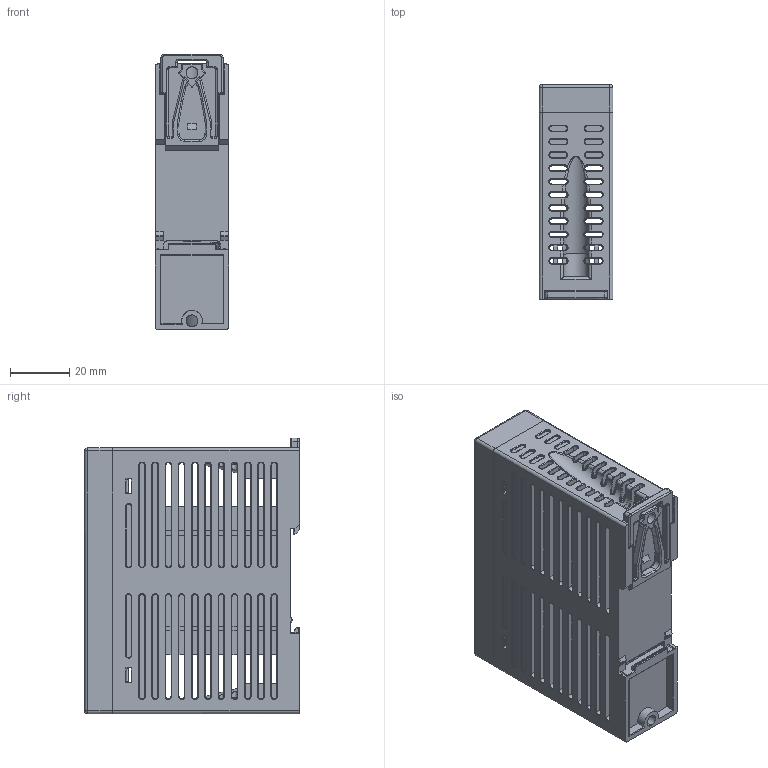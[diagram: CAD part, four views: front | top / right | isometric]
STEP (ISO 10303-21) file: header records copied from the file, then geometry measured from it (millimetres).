
FILE_DESCRIPTION(/* description */ (''),/* implementation_level */ '2;1');
FILE_NAME(/* name */ 'FBs-CM25',/* time_stamp */ '2021-06-10T11:22:00+08:00',/* author */ (''),/* organization */ (''),/* preprocessor_version */ 'ST-DEVELOPER v16.5',/* originating_system */ '',/* authorisation */ '');
FILE_SCHEMA (('CONFIG_CONTROL_DESIGN'));
Products named in the file (5): Document; JOIN; Block 03; FBS-CM_DOWN_COVER; Block 01
Assembly tree (4 placements, depth 3):
  Document
    JOIN
      Block 03
    FBS-CM_DOWN_COVER
      Block 01
Bounding box: 25 x 72.7 x 93.25 mm (x, y, z)
Surface area: 44001.5 mm2 (no closed solid volume)
Topology: 0 solids, 1575 shells, 1577 faces, 8464 edges, 8460 vertices
Faces by surface type: plane 612, cylinder 612, bspline 353
Entity records: 118902 total; most frequent: CARTESIAN_POINT 62870, ORIENTED_EDGE 8466, EDGE_CURVE 8464, VERTEX_POINT 8460, B_SPLINE_CURVE_WITH_KNOTS 5800, EDGE_LOOP 1679, COLOUR_RGB 1577, FILL_AREA_STYLE_COLOUR 1577
